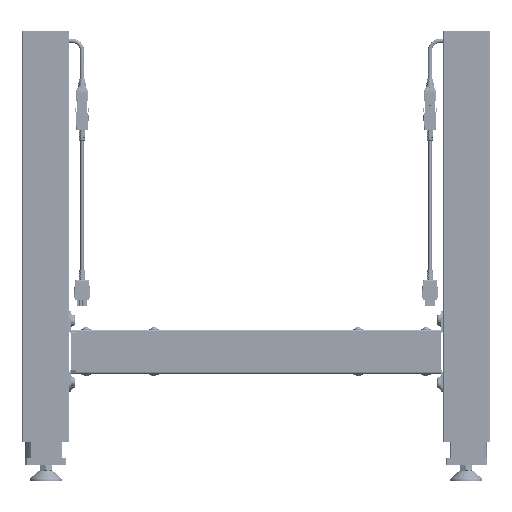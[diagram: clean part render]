
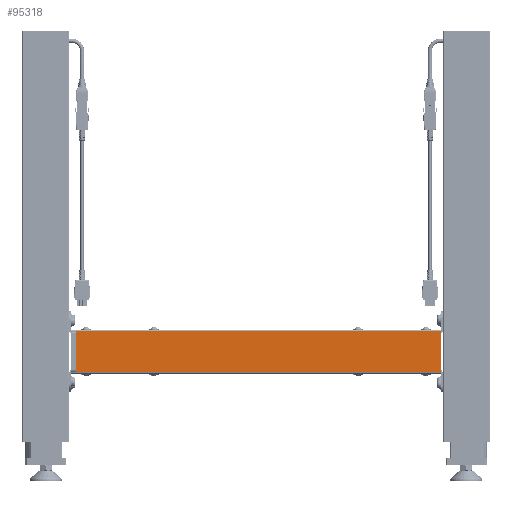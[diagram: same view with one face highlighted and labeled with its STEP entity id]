
A CAD part, front view. The second image highlights one B-rep face of the part: STEP entity #95318.
In plain terms, the highlighted planar face has unit normal (0, -1, 0) as drawn and (0, 0, -1) by its records, which use the part's own axes.
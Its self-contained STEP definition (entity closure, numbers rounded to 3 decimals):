
#25469=ORIENTED_EDGE('',*,*,#38243,.F.);
#25470=ORIENTED_EDGE('',*,*,#38229,.T.);
#25471=ORIENTED_EDGE('',*,*,#38244,.F.);
#25472=ORIENTED_EDGE('',*,*,#38237,.T.);
#38229=EDGE_CURVE('',#46206,#46207,#53454,.T.);
#38237=EDGE_CURVE('',#46214,#46215,#53458,.T.);
#38243=EDGE_CURVE('',#46206,#46215,#53462,.T.);
#38244=EDGE_CURVE('',#46214,#46207,#53463,.T.);
#46206=VERTEX_POINT('',#149210);
#46207=VERTEX_POINT('',#149211);
#46214=VERTEX_POINT('',#149228);
#46215=VERTEX_POINT('',#149229);
#53454=LINE('',#149209,#60594);
#53458=LINE('',#149227,#60598);
#53462=LINE('',#149239,#60602);
#53463=LINE('',#149240,#60603);
#60594=VECTOR('',#122289,1000.);
#60598=VECTOR('',#122305,1000.);
#60602=VECTOR('',#122317,1000.);
#60603=VECTOR('',#122318,1000.);
#65226=EDGE_LOOP('',(#25469,#25470,#25471,#25472));
#69707=FACE_BOUND('',#65226,.T.);
#72436=PLANE('',#102393);
#95318=ADVANCED_FACE('',(#69707),#72436,.T.);
#102393=AXIS2_PLACEMENT_3D('',#149238,#122315,#122316);
#122289=DIRECTION('',(-1.,0.,0.));
#122305=DIRECTION('',(1.,0.,0.));
#122315=DIRECTION('',(0.,0.,-1.));
#122316=DIRECTION('',(-1.,0.,0.));
#122317=DIRECTION('',(0.,1.,0.));
#122318=DIRECTION('',(0.,-1.,0.));
#149209=CARTESIAN_POINT('',(537.7,-29.9,-2.5));
#149210=CARTESIAN_POINT('',(537.7,-29.9,-2.5));
#149211=CARTESIAN_POINT('',(0.,-29.9,-2.5));
#149227=CARTESIAN_POINT('',(0.,29.9,-2.5));
#149228=CARTESIAN_POINT('',(0.,29.9,-2.5));
#149229=CARTESIAN_POINT('',(537.7,29.9,-2.5));
#149238=CARTESIAN_POINT('',(0.,0.,-2.5));
#149239=CARTESIAN_POINT('',(537.7,-32.5,-2.5));
#149240=CARTESIAN_POINT('',(0.,-32.5,-2.5));
